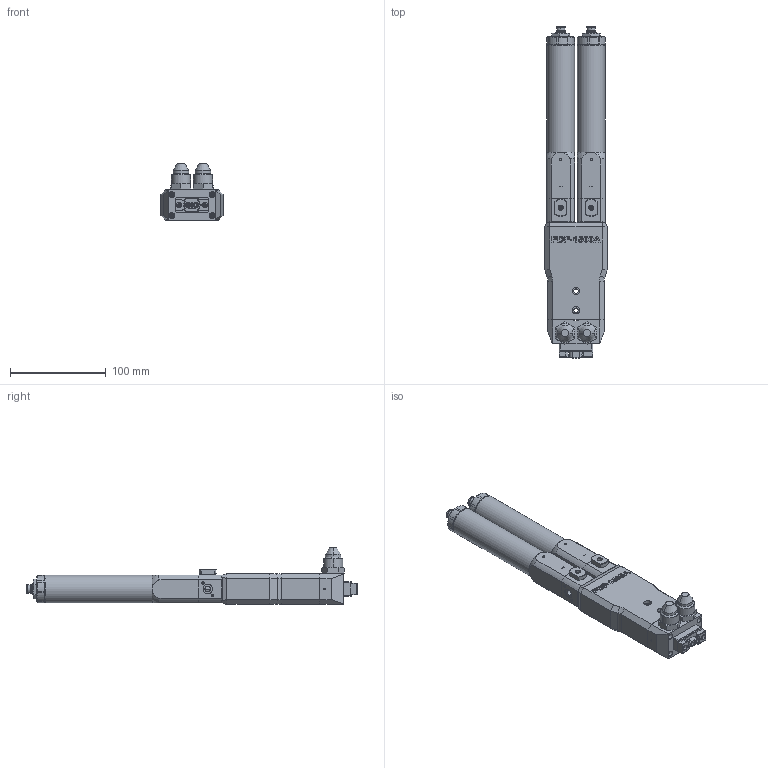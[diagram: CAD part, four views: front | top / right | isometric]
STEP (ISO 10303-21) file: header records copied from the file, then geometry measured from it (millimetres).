
FILE_DESCRIPTION (( 'STEP AP214' ), '1' );
FILE_NAME ('PDPM-1500-1000BA.STEP', '2024-10-11T12:35:37', ( '' ), ( '' ), 'SwSTEP 2.0', 'SolidWorks 2024', '' );
FILE_SCHEMA (( 'AUTOMOTIVE_DESIGN' ));
Length unit declared in the file: millimetre
Products named in the file (1): PDPM-1500-1000BA
Bounding box: 65 x 347 x 59.3 mm (x, y, z)
Volume: 528175.7 mm3; surface area: 127484.5 mm2
Topology: 13 solids, 13 shells, 1708 faces, 4368 edges, 2782 vertices
Faces by surface type: plane 822, cylinder 526, cone 315, bspline 27, torus 12, sphere 6
Full cylindrical faces by diameter (mm): 29 x2
Entity records: 68546 total; most frequent: CARTESIAN_POINT 27570, ORIENTED_EDGE 8646, DIRECTION 8318, EDGE_CURVE 4323, AXIS2_PLACEMENT_3D 2946, VERTEX_POINT 2781, VECTOR 2426, LINE 2426
